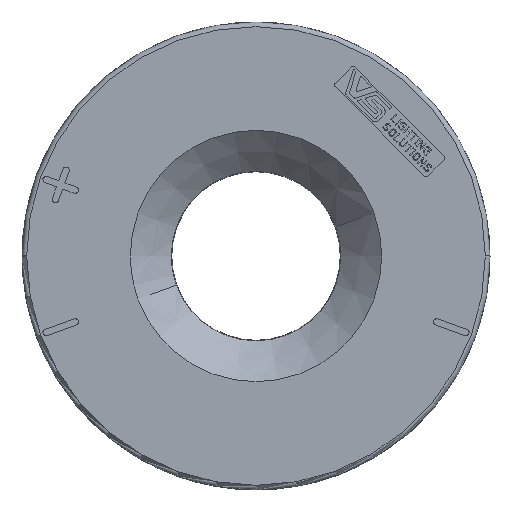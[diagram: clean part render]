
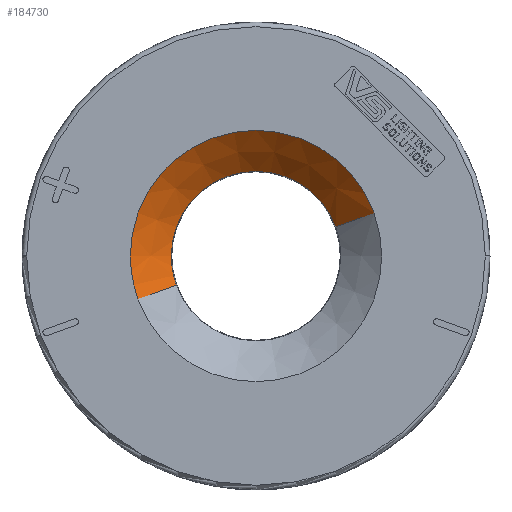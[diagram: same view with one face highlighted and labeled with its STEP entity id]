
A CAD part, top view. The second image highlights one B-rep face of the part: STEP entity #184730.
In plain terms, the highlighted conical face has half-angle 47.5 degrees and reference radius 13.42 mm.
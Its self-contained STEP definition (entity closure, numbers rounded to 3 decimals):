
#152280=CARTESIAN_POINT('',(-1.599,6.595,
3.985));
#152290=DIRECTION('',(0.,0.,-1.));
#152300=DIRECTION('',(-1.,0.,0.));
#152310=AXIS2_PLACEMENT_3D('',#152280,#152290,#152300);
#152320=CIRCLE('',#152310,9.071);
#152350=CARTESIAN_POINT('',(7.473,6.595,
3.985));
#152360=VERTEX_POINT('',#152350);
#152600=CARTESIAN_POINT('',(-10.123,3.492,
3.985));
#152610=VERTEX_POINT('',#152600);
#152640=EDGE_CURVE('',#152360,#152610,#152320,.T.);
#184340=CARTESIAN_POINT('',(-1.599,6.595,0.));
#184350=DIRECTION('',(0.,0.,-1.));
#184360=DIRECTION('',(-1.,0.,0.));
#184370=AXIS2_PLACEMENT_3D('',#184340,#184350,#184360);
#184380=CONICAL_SURFACE('',#184370,13.42,0.829);
#184390=CARTESIAN_POINT('',(-10.67,6.595,
3.985));
#184400=VERTEX_POINT('',#184390);
#184410=EDGE_CURVE('',#152610,#184400,#152320,.T.);
#184420=ORIENTED_EDGE('',*,*,#184410,.F.);
#184430=CARTESIAN_POINT('',(-15.019,6.595,0.));
#184440=DIRECTION('',(-0.737,0.,-0.676));
#184450=VECTOR('',#184440,18.202);
#184460=LINE('',#184430,#184450);
#184470=CARTESIAN_POINT('',(-15.019,6.595,0.));
#184480=VERTEX_POINT('',#184470);
#184490=EDGE_CURVE('',#184400,#184480,#184460,.T.);
#184500=ORIENTED_EDGE('',*,*,#184490,.F.);
#184510=CARTESIAN_POINT('',(-1.599,6.595,0.));
#184520=DIRECTION('',(0.,0.,-1.));
#184530=DIRECTION('',(-1.,0.,0.));
#184540=AXIS2_PLACEMENT_3D('',#184510,#184520,#184530);
#184550=CIRCLE('',#184540,13.42);
#184560=CARTESIAN_POINT('',(-14.209,2.005,
0.));
#184570=VERTEX_POINT('',#184560);
#184580=EDGE_CURVE('',#184570,#184480,#184550,.T.);
#184590=ORIENTED_EDGE('',*,*,#184580,.T.);
#184600=CARTESIAN_POINT('',(11.821,6.595,
0.));
#184610=VERTEX_POINT('',#184600);
#184620=EDGE_CURVE('',#184610,#184570,#184550,.T.);
#184630=ORIENTED_EDGE('',*,*,#184620,.T.);
#184640=CARTESIAN_POINT('',(11.821,6.595,0.));
#184650=DIRECTION('',(0.737,0.,
-0.676));
#184660=VECTOR('',#184650,18.202);
#184670=LINE('',#184640,#184660);
#184680=EDGE_CURVE('',#152360,#184610,#184670,.T.);
#184690=ORIENTED_EDGE('',*,*,#184680,.T.);
#184700=ORIENTED_EDGE('',*,*,#152640,.F.);
#184710=EDGE_LOOP('',(#184700,#184690,#184630,#184590,#184500,#184420));
#184720=FACE_OUTER_BOUND('',#184710,.T.);
#184730=ADVANCED_FACE('',(#184720),#184380,.F.);
